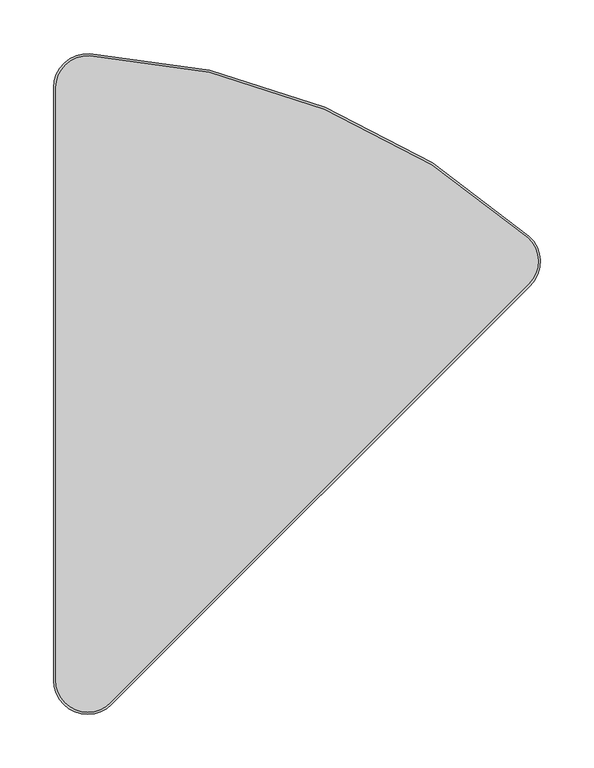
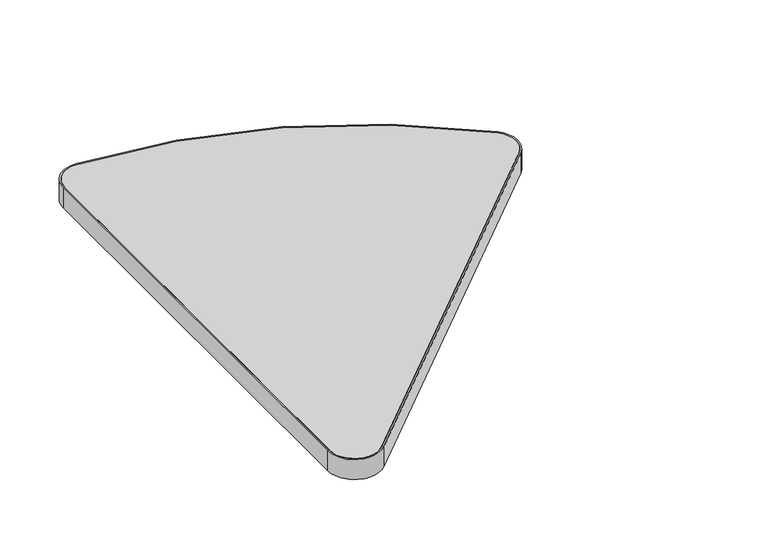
"""IFC4 building model written with IfcOpenShell, lengths in millimetres: furniture geometry, Wieland_HC-Monroe-Corner_Top_Angled : 68MNTC45DEG."""

from ifc_helpers import new_model, si_unit, point, frame, frame_2d, origin, place, context, project, spatial, polyline, circle_curve, trimmed, segment, composite_curve, outline, extrude, source, transform, mapped, element, save


def furniture_1a8e562f(model_context):
    return source(origin(), model_context, "Body", "SweptSolid", [
        extrude(outline(composite_curve([segment(trimmed(circle_curve(frame_2d((6.35, -32.6094787)), 29.765625), [point((-23.415625, -32.6094787))], [point((7.9037437, -2.8844335))], False, "CARTESIAN"), True, "CONTINUOUS"), segment(trimmed(circle_curve(frame_2d((-26.599806, -662.980175)), 660.9968857), [point((7.9037437, -2.8844335))], [point((415.9927143, -172.033392))], False, "CARTESIAN"), True, "CONTINUOUS"), segment(trimmed(circle_curve(frame_2d((396.0621469, -194.1414202)), 29.765625), [point((415.9927143, -172.033392))], [point((417.1096222, -215.1888955))], False, "CARTESIAN"), True, "CONTINUOUS"), segment(polyline([(417.1096222, -215.1888955), (27.3974753, -604.9010425)]), True, "CONTINUOUS"), segment(trimmed(circle_curve(frame_2d((6.35, -583.8535672)), 29.765625), [point((27.3974753, -604.9010425))], [point((-23.415625, -583.8535672))], False, "CARTESIAN"), True, "CONTINUOUS"), segment(polyline([(-23.415625, -583.8535672), (-23.415625, -32.6094787)]), True, "CONTINUOUS")], self_intersect=False)), frame((0.0, 0.0, 317.5), z_axis=(0.0, 0.0, 1.0), x_axis=(1.0, 0.0, 0.0)), (0.0, 0.0, 1.0), 25.4),
        extrude(outline(composite_curve([segment(polyline([(-25.4, -583.8535672), (-25.4, -32.6094787)]), True, "CONTINUOUS"), segment(trimmed(circle_curve(frame_2d((6.35, -32.6094787)), 31.75), [point((-25.4, -32.6094787))], [point((8.0073266, -0.9027639))], False, "CARTESIAN"), True, "CONTINUOUS"), segment(trimmed(circle_curve(frame_2d((-26.599806, -662.980175)), 662.9812607), [point((8.0073266, -0.9027639))], [point((417.3214188, -170.5595234))], False, "CARTESIAN"), True, "CONTINUOUS"), segment(trimmed(circle_curve(frame_2d((396.0621469, -194.1414202)), 31.75), [point((417.3214188, -170.5595234))], [point((418.5127872, -216.5920605))], False, "CARTESIAN"), True, "CONTINUOUS"), segment(polyline([(418.5127872, -216.5920605), (28.8006403, -606.3042075)]), True, "CONTINUOUS"), segment(trimmed(circle_curve(frame_2d((6.35, -583.8535672)), 31.75), [point((28.8006403, -606.3042075))], [point((-25.4, -583.8535672))], False, "CARTESIAN"), True, "CONTINUOUS")], self_intersect=False), holes=[composite_curve([segment(trimmed(circle_curve(frame_2d((-26.599806, -662.980175)), 660.9968857), [point((415.9927143, -172.033392))], [point((7.9037437, -2.8844335))], True, "CARTESIAN"), True, "CONTINUOUS"), segment(trimmed(circle_curve(frame_2d((6.35, -32.6094787)), 29.765625), [point((7.9037437, -2.8844335))], [point((-23.415625, -32.6094787))], True, "CARTESIAN"), True, "CONTINUOUS"), segment(polyline([(-23.415625, -32.6094787), (-23.415625, -583.8535672)]), True, "CONTINUOUS"), segment(trimmed(circle_curve(frame_2d((6.35, -583.8535672)), 29.765625), [point((-23.415625, -583.8535672))], [point((27.3974753, -604.9010425))], True, "CARTESIAN"), True, "CONTINUOUS"), segment(polyline([(27.3974753, -604.9010425), (417.1096222, -215.1888955)]), True, "CONTINUOUS"), segment(trimmed(circle_curve(frame_2d((396.0621469, -194.1414202)), 29.765625), [point((417.1096222, -215.1888955))], [point((415.9927143, -172.033392))], True, "CARTESIAN"), True, "CONTINUOUS")], self_intersect=False)]), frame((0.0, 0.0, 317.5), z_axis=(0.0, 0.0, 1.0), x_axis=(1.0, 0.0, 0.0)), (0.0, 0.0, 1.0), 25.4),
    ])


if __name__ == "__main__":
    model = new_model("IFC4")
    model_context = context("Model", 3, world=origin())
    ifc_project = project(units=[si_unit("LENGTHUNIT", "METRE", prefix="MILLI")], contexts=[model_context])
    site = spatial("IfcSite", under=ifc_project)
    building = spatial("IfcBuilding", under=site)
    placement = place(None, origin())
    furniture_shape = furniture_1a8e562f(model_context)
    element("IfcFurniture", 1, ObjectType="Wieland_HC-Monroe-Corner_Top_Angled : 68MNTC45DEG", at=placement, inside=building, context=model_context, shape_type="MappedRepresentation", body=[
        mapped(furniture_shape, transform((0.0, 0.0, 0.0), x_axis=(1.0, 0.0, 0.0), y_axis=(0.0, 1.0, 0.0), z_axis=(0.0, 0.0, 1.0))),
    ])
    save(model, "model.ifc")
